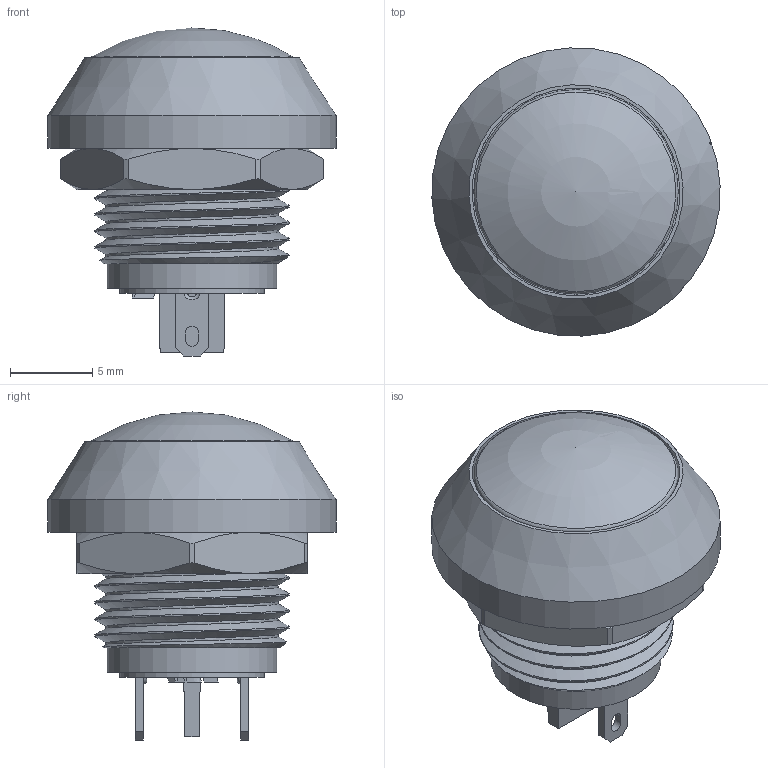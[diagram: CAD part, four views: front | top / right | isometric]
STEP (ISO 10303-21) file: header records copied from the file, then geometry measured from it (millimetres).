
FILE_DESCRIPTION(/* description */ (''),/* implementation_level */ '2;1');
FILE_NAME(/* name */ 'FM12E-SDP-10.stp',/* time_stamp */ '2020-07-28T09:44:21+08:00',/* author */ (''),/* organization */ (''),/* preprocessor_version */ 'ST-DEVELOPER v16.7',/* originating_system */ 'SIEMENS PLM Software NX 12.0',/* authorisation */ '');
FILE_SCHEMA (('AUTOMOTIVE_DESIGN { 1 0 10303 214 3 1 1 1 }'));
Length unit declared in the file: millimetre
Products named in the file (1): Admi43A8CC905oed
Bounding box: 17.48 x 17.48 x 19.9 mm (x, y, z)
Volume: 1437.1 mm3; surface area: 2589.1 mm2
Topology: 1 solids, 3 shells, 233 faces, 605 edges, 399 vertices
Faces by surface type: plane 156, cylinder 37, cone 24, bspline 6, torus 5, extrusion 4, sphere 1
Full cylindrical faces by diameter (mm): 0.6 x2, 1.1 x2, 2.5 x1, 2.8 x1, 5 x1, 8.8 x1, 9 x1, 9.4 x1, 10.3 x1, 11.3 x1, 12.4 x1, 12.6 x1, 13.2 x1, 16 x1, 17.5 x1
Entity records: 9039 total; most frequent: CARTESIAN_POINT 3028, ORIENTED_EDGE 1138, DIRECTION 1069, EDGE_CURVE 569, VERTEX_POINT 386, AXIS2_PLACEMENT_3D 358, VECTOR 353, LINE 349
